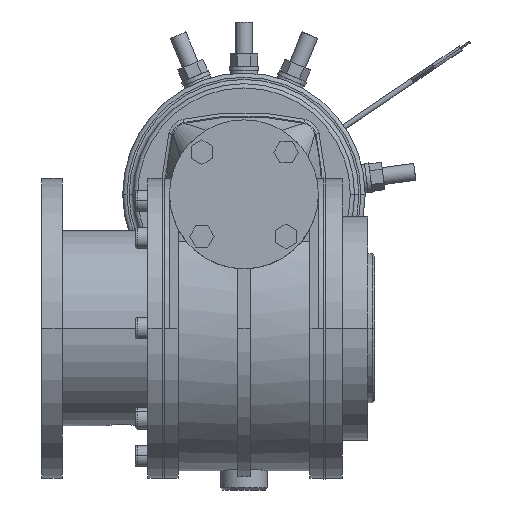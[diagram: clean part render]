
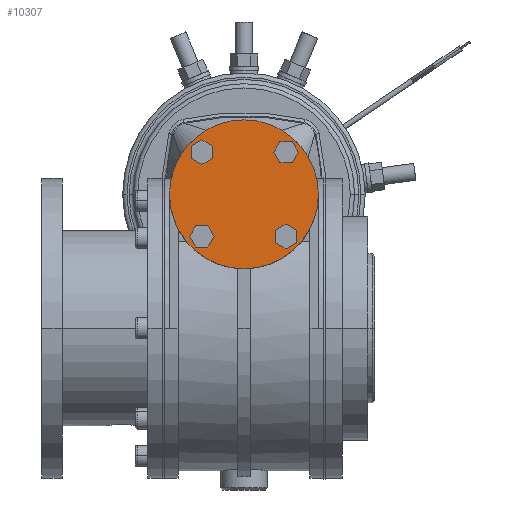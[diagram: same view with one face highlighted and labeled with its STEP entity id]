
A CAD part, left-side view. The second image highlights one B-rep face of the part: STEP entity #10307.
In plain terms, the highlighted planar face has unit normal (-1, 0, 0).
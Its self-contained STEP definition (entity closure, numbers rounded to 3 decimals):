
#2496=CARTESIAN_POINT('',(-79.5,-37.5,63.));
#2497=DIRECTION('',(-1.,0.,0.));
#2498=DIRECTION('',(0.,0.,1.));
#2499=AXIS2_PLACEMENT_3D('',#2496,#2497,#2498);
#2501=CARTESIAN_POINT('',(-79.5,-37.5,63.));
#2502=DIRECTION('',(-1.,0.,0.));
#2503=DIRECTION('',(0.,0.,-1.));
#2504=AXIS2_PLACEMENT_3D('',#2501,#2502,#2503);
#2506=DIRECTION('',(0.,0.866,0.5));
#2507=VECTOR('',#2506,5.774);
#2508=CARTESIAN_POINT('',(-79.5,-17.701,77.025));
#2509=LINE('',#2508,#2507);
#2510=DIRECTION('',(0.,0.866,-0.5));
#2511=VECTOR('',#2510,5.774);
#2512=CARTESIAN_POINT('',(-79.5,-22.701,79.912));
#2513=LINE('',#2512,#2511);
#2514=DIRECTION('',(0.,-0.866,-0.5));
#2515=VECTOR('',#2514,5.774);
#2516=CARTESIAN_POINT('',(-79.5,-17.701,88.572));
#2517=LINE('',#2516,#2515);
#2518=DIRECTION('',(0.,-0.866,0.5));
#2519=VECTOR('',#2518,5.774);
#2520=CARTESIAN_POINT('',(-79.5,-12.701,85.686));
#2521=LINE('',#2520,#2519);
#2522=DIRECTION('',(0.,0.5,-0.866));
#2523=VECTOR('',#2522,5.774);
#2524=CARTESIAN_POINT('',(-79.5,-23.475,43.201));
#2525=LINE('',#2524,#2523);
#2526=DIRECTION('',(0.,-0.5,-0.866));
#2527=VECTOR('',#2526,5.774);
#2528=CARTESIAN_POINT('',(-79.5,-20.588,48.201));
#2529=LINE('',#2528,#2527);
#2530=DIRECTION('',(0.,-0.5,0.866));
#2531=VECTOR('',#2530,5.774);
#2532=CARTESIAN_POINT('',(-79.5,-11.928,43.201));
#2533=LINE('',#2532,#2531);
#2534=DIRECTION('',(0.,0.5,0.866));
#2535=VECTOR('',#2534,5.774);
#2536=CARTESIAN_POINT('',(-79.5,-14.814,38.201));
#2537=LINE('',#2536,#2535);
#2538=DIRECTION('',(0.,-0.866,-0.5));
#2539=VECTOR('',#2538,5.774);
#2540=CARTESIAN_POINT('',(-79.5,-57.299,48.975));
#2541=LINE('',#2540,#2539);
#2542=DIRECTION('',(0.,-0.866,0.5));
#2543=VECTOR('',#2542,5.774);
#2544=CARTESIAN_POINT('',(-79.5,-52.299,46.088));
#2545=LINE('',#2544,#2543);
#2546=DIRECTION('',(0.,0.866,0.5));
#2547=VECTOR('',#2546,5.774);
#2548=CARTESIAN_POINT('',(-79.5,-57.299,37.428));
#2549=LINE('',#2548,#2547);
#2550=DIRECTION('',(0.,0.866,-0.5));
#2551=VECTOR('',#2550,5.774);
#2552=CARTESIAN_POINT('',(-79.5,-62.299,40.314));
#2553=LINE('',#2552,#2551);
#2554=DIRECTION('',(0.,-0.5,0.866));
#2555=VECTOR('',#2554,5.774);
#2556=CARTESIAN_POINT('',(-79.5,-51.525,82.799));
#2557=LINE('',#2556,#2555);
#2558=DIRECTION('',(0.,0.5,0.866));
#2559=VECTOR('',#2558,5.774);
#2560=CARTESIAN_POINT('',(-79.5,-54.412,77.799));
#2561=LINE('',#2560,#2559);
#2562=DIRECTION('',(0.,0.5,-0.866));
#2563=VECTOR('',#2562,5.774);
#2564=CARTESIAN_POINT('',(-79.5,-63.072,82.799));
#2565=LINE('',#2564,#2563);
#2566=DIRECTION('',(0.,-0.5,-0.866));
#2567=VECTOR('',#2566,5.774);
#2568=CARTESIAN_POINT('',(-79.5,-60.186,87.799));
#2569=LINE('',#2568,#2567);
#2570=DIRECTION('',(0.,0.,-1.));
#2571=VECTOR('',#2570,5.774);
#2572=CARTESIAN_POINT('',(-79.5,-12.701,85.686));
#2573=LINE('',#2572,#2571);
#2586=DIRECTION('',(0.,0.,1.));
#2587=VECTOR('',#2586,5.774);
#2588=CARTESIAN_POINT('',(-79.5,-22.701,79.912));
#2589=LINE('',#2588,#2587);
#2626=DIRECTION('',(0.,-1.,0.));
#2627=VECTOR('',#2626,5.774);
#2628=CARTESIAN_POINT('',(-79.5,-14.814,38.201));
#2629=LINE('',#2628,#2627);
#2642=DIRECTION('',(0.,1.,0.));
#2643=VECTOR('',#2642,5.774);
#2644=CARTESIAN_POINT('',(-79.5,-20.588,48.201));
#2645=LINE('',#2644,#2643);
#2682=DIRECTION('',(0.,0.,1.));
#2683=VECTOR('',#2682,5.774);
#2684=CARTESIAN_POINT('',(-79.5,-62.299,40.314));
#2685=LINE('',#2684,#2683);
#2698=DIRECTION('',(0.,0.,-1.));
#2699=VECTOR('',#2698,5.774);
#2700=CARTESIAN_POINT('',(-79.5,-52.299,46.088));
#2701=LINE('',#2700,#2699);
#2738=DIRECTION('',(0.,1.,0.));
#2739=VECTOR('',#2738,5.774);
#2740=CARTESIAN_POINT('',(-79.5,-60.186,87.799));
#2741=LINE('',#2740,#2739);
#2754=DIRECTION('',(0.,-1.,0.));
#2755=VECTOR('',#2754,5.774);
#2756=CARTESIAN_POINT('',(-79.5,-54.412,77.799));
#2757=LINE('',#2756,#2755);
#5933=CARTESIAN_POINT('',(-79.5,-37.5,98.));
#5934=VERTEX_POINT('',#5933);
#5935=CARTESIAN_POINT('',(-79.5,-37.5,28.));
#5936=VERTEX_POINT('',#5935);
#6393=CARTESIAN_POINT('',(-79.5,-12.701,79.912));
#6395=VERTEX_POINT('',#6393);
#6399=CARTESIAN_POINT('',(-79.5,-17.701,77.025));
#6400=VERTEX_POINT('',#6399);
#6401=CARTESIAN_POINT('',(-79.5,-12.701,85.686));
#6403=VERTEX_POINT('',#6401);
#6405=CARTESIAN_POINT('',(-79.5,-17.701,88.572));
#6407=VERTEX_POINT('',#6405);
#6409=CARTESIAN_POINT('',(-79.5,-22.701,85.686));
#6411=VERTEX_POINT('',#6409);
#6413=CARTESIAN_POINT('',(-79.5,-22.701,79.912));
#6415=VERTEX_POINT('',#6413);
#6417=CARTESIAN_POINT('',(-79.5,-20.588,38.201));
#6419=VERTEX_POINT('',#6417);
#6423=CARTESIAN_POINT('',(-79.5,-23.475,43.201));
#6424=VERTEX_POINT('',#6423);
#6425=CARTESIAN_POINT('',(-79.5,-14.814,38.201));
#6427=VERTEX_POINT('',#6425);
#6429=CARTESIAN_POINT('',(-79.5,-11.928,43.201));
#6431=VERTEX_POINT('',#6429);
#6433=CARTESIAN_POINT('',(-79.5,-14.814,48.201));
#6435=VERTEX_POINT('',#6433);
#6437=CARTESIAN_POINT('',(-79.5,-20.588,48.201));
#6439=VERTEX_POINT('',#6437);
#6441=CARTESIAN_POINT('',(-79.5,-62.299,46.088));
#6443=VERTEX_POINT('',#6441);
#6447=CARTESIAN_POINT('',(-79.5,-57.299,48.975));
#6448=VERTEX_POINT('',#6447);
#6449=CARTESIAN_POINT('',(-79.5,-62.299,40.314));
#6451=VERTEX_POINT('',#6449);
#6453=CARTESIAN_POINT('',(-79.5,-57.299,37.428));
#6455=VERTEX_POINT('',#6453);
#6457=CARTESIAN_POINT('',(-79.5,-52.299,40.314));
#6459=VERTEX_POINT('',#6457);
#6461=CARTESIAN_POINT('',(-79.5,-52.299,46.088));
#6463=VERTEX_POINT('',#6461);
#6465=CARTESIAN_POINT('',(-79.5,-54.412,87.799));
#6467=VERTEX_POINT('',#6465);
#6471=CARTESIAN_POINT('',(-79.5,-51.525,82.799));
#6472=VERTEX_POINT('',#6471);
#6473=CARTESIAN_POINT('',(-79.5,-60.186,87.799));
#6475=VERTEX_POINT('',#6473);
#6477=CARTESIAN_POINT('',(-79.5,-63.072,82.799));
#6479=VERTEX_POINT('',#6477);
#6481=CARTESIAN_POINT('',(-79.5,-60.186,77.799));
#6483=VERTEX_POINT('',#6481);
#6485=CARTESIAN_POINT('',(-79.5,-54.412,77.799));
#6487=VERTEX_POINT('',#6485);
#10242=CARTESIAN_POINT('',(-79.5,-37.5,63.));
#10243=DIRECTION('',(1.,0.,0.));
#10244=DIRECTION('',(0.,0.,1.));
#10245=AXIS2_PLACEMENT_3D('',#10242,#10243,#10244);
#10246=PLANE('',#10245);
#10247=ORIENTED_EDGE('',*,*,#7244,.F.);
#10248=ORIENTED_EDGE('',*,*,#7274,.F.);
#10249=EDGE_LOOP('',(#10247,#10248));
#10250=FACE_OUTER_BOUND('',#10249,.F.);
#10252=ORIENTED_EDGE('',*,*,#10251,.F.);
#10254=ORIENTED_EDGE('',*,*,#10253,.F.);
#10256=ORIENTED_EDGE('',*,*,#10255,.T.);
#10258=ORIENTED_EDGE('',*,*,#10257,.F.);
#10260=ORIENTED_EDGE('',*,*,#10259,.F.);
#10262=ORIENTED_EDGE('',*,*,#10261,.T.);
#10263=EDGE_LOOP('',(#10252,#10254,#10256,#10258,#10260,#10262));
#10264=FACE_BOUND('',#10263,.F.);
#10266=ORIENTED_EDGE('',*,*,#10265,.F.);
#10268=ORIENTED_EDGE('',*,*,#10267,.F.);
#10270=ORIENTED_EDGE('',*,*,#10269,.T.);
#10272=ORIENTED_EDGE('',*,*,#10271,.F.);
#10274=ORIENTED_EDGE('',*,*,#10273,.F.);
#10276=ORIENTED_EDGE('',*,*,#10275,.T.);
#10277=EDGE_LOOP('',(#10266,#10268,#10270,#10272,#10274,#10276));
#10278=FACE_BOUND('',#10277,.F.);
#10280=ORIENTED_EDGE('',*,*,#10279,.F.);
#10282=ORIENTED_EDGE('',*,*,#10281,.F.);
#10284=ORIENTED_EDGE('',*,*,#10283,.T.);
#10286=ORIENTED_EDGE('',*,*,#10285,.F.);
#10288=ORIENTED_EDGE('',*,*,#10287,.F.);
#10290=ORIENTED_EDGE('',*,*,#10289,.T.);
#10291=EDGE_LOOP('',(#10280,#10282,#10284,#10286,#10288,#10290));
#10292=FACE_BOUND('',#10291,.F.);
#10294=ORIENTED_EDGE('',*,*,#10293,.F.);
#10296=ORIENTED_EDGE('',*,*,#10295,.F.);
#10298=ORIENTED_EDGE('',*,*,#10297,.T.);
#10300=ORIENTED_EDGE('',*,*,#10299,.F.);
#10302=ORIENTED_EDGE('',*,*,#10301,.F.);
#10304=ORIENTED_EDGE('',*,*,#10303,.T.);
#10305=EDGE_LOOP('',(#10294,#10296,#10298,#10300,#10302,#10304));
#10306=FACE_BOUND('',#10305,.F.);
#10307=ADVANCED_FACE('',(#10250,#10264,#10278,#10292,#10306),#10246,.F.);
#2500=CIRCLE('',#2499,35.);
#2505=CIRCLE('',#2504,35.);
#7244=EDGE_CURVE('',#5934,#5936,#2500,.T.);
#7274=EDGE_CURVE('',#5936,#5934,#2505,.T.);
#10251=EDGE_CURVE('',#6400,#6395,#2509,.T.);
#10253=EDGE_CURVE('',#6415,#6400,#2513,.T.);
#10255=EDGE_CURVE('',#6415,#6411,#2589,.T.);
#10257=EDGE_CURVE('',#6407,#6411,#2517,.T.);
#10259=EDGE_CURVE('',#6403,#6407,#2521,.T.);
#10261=EDGE_CURVE('',#6403,#6395,#2573,.T.);
#10265=EDGE_CURVE('',#6424,#6419,#2525,.T.);
#10267=EDGE_CURVE('',#6439,#6424,#2529,.T.);
#10269=EDGE_CURVE('',#6439,#6435,#2645,.T.);
#10271=EDGE_CURVE('',#6431,#6435,#2533,.T.);
#10273=EDGE_CURVE('',#6427,#6431,#2537,.T.);
#10275=EDGE_CURVE('',#6427,#6419,#2629,.T.);
#10279=EDGE_CURVE('',#6448,#6443,#2541,.T.);
#10281=EDGE_CURVE('',#6463,#6448,#2545,.T.);
#10283=EDGE_CURVE('',#6463,#6459,#2701,.T.);
#10285=EDGE_CURVE('',#6455,#6459,#2549,.T.);
#10287=EDGE_CURVE('',#6451,#6455,#2553,.T.);
#10289=EDGE_CURVE('',#6451,#6443,#2685,.T.);
#10293=EDGE_CURVE('',#6472,#6467,#2557,.T.);
#10295=EDGE_CURVE('',#6487,#6472,#2561,.T.);
#10297=EDGE_CURVE('',#6487,#6483,#2757,.T.);
#10299=EDGE_CURVE('',#6479,#6483,#2565,.T.);
#10301=EDGE_CURVE('',#6475,#6479,#2569,.T.);
#10303=EDGE_CURVE('',#6475,#6467,#2741,.T.);
